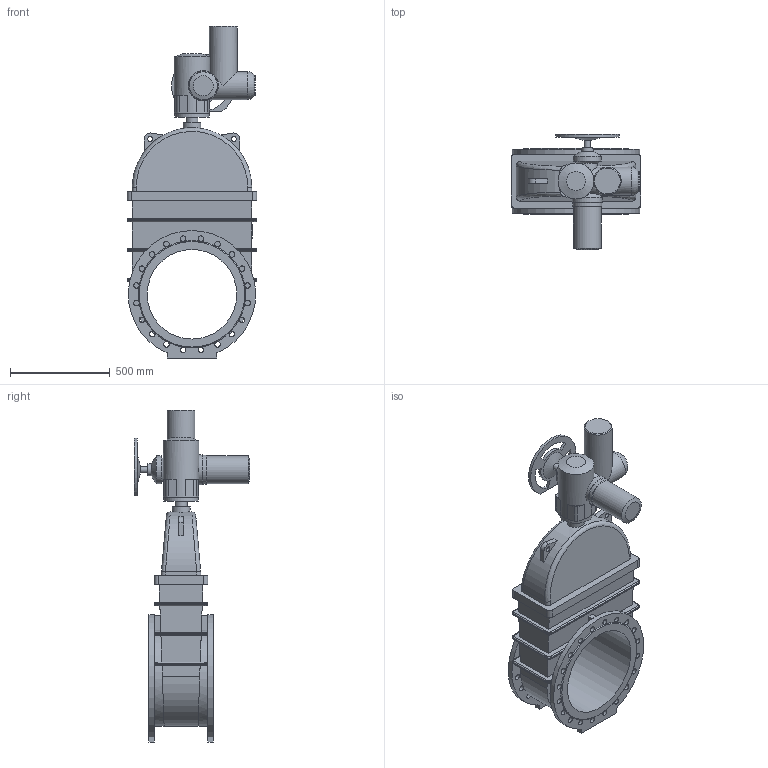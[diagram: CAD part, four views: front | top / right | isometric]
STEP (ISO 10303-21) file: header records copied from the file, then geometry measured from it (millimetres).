
FILE_DESCRIPTION(('STEP AP203'), '1');
FILE_NAME('青溻桄赅 47GVA.Z DN450 PN10+MT903.A30', '', ('UNSPECIFIED'), ('UNSPECIFIED'), 'ASCON STEP Converter 1.6', 'ASCON Math Kernel', '');
FILE_SCHEMA(('CONFIG_CONTROL_DESIGN'));
Length unit declared in the file: millimetre
Bounding box: 650 x 578 x 1667 mm (x, y, z)
Volume: 117640233.4 mm3; surface area: 3811882.1 mm2
Topology: 2 solids, 2 shells, 331 faces, 958 edges, 617 vertices
Faces by surface type: cylinder 153, plane 140, bspline 26, cone 11, torus 1
Full cylindrical faces by diameter (mm): 14 x4, 18 x4, 25 x2, 28 x40, 30 x1, 32 x1, 60 x2, 90 x1, 100 x3, 140 x4, 147 x1, 151 x1, 175 x1, 450 x1
Entity records: 19178 total; most frequent: CARTESIAN_POINT 8090, ORIENTED_EDGE 1762, DIRECTION 1670, EDGE_CURVE 881, AXIS2_PLACEMENT_3D 652, VERTEX_POINT 617, EDGE_LOOP 494, FACE_BOUND 388
